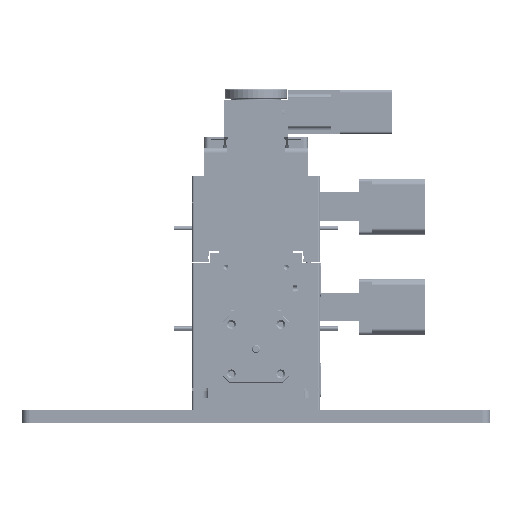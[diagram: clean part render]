
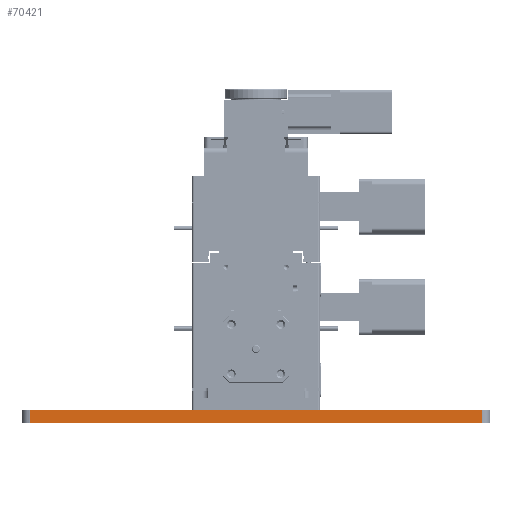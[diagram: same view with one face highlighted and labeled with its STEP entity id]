
A CAD part, left-side view. The second image highlights one B-rep face of the part: STEP entity #70421.
In plain terms, the highlighted planar face has unit normal (-1, 0, 0).
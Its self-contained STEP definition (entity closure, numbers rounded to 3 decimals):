
#2271 = CARTESIAN_POINT ( 'NONE',  ( -272., -147., 8. ) ) ;
#20353 = LINE ( 'NONE', #36945, #142724 ) ;
#21741 = EDGE_CURVE ( 'NONE', #163173, #234034, #173721, .T. ) ;
#36945 = CARTESIAN_POINT ( 'NONE',  ( -272., -142., 8. ) ) ;
#38524 = CARTESIAN_POINT ( 'NONE',  ( -272., 142., 8. ) ) ;
#41445 = VERTEX_POINT ( 'NONE', #50079 ) ;
#50079 = CARTESIAN_POINT ( 'NONE',  ( -272., -142., 8. ) ) ;
#54050 = VECTOR ( 'NONE', #64849, 1000. ) ;
#56665 = FACE_OUTER_BOUND ( 'NONE', #183334, .T. ) ;
#57373 = ORIENTED_EDGE ( 'NONE', *, *, #91475, .F. ) ;
#64849 = DIRECTION ( 'NONE',  ( 0., -1., 0. ) ) ;
#70421 = ADVANCED_FACE ( 'NONE', ( #56665 ), #148861, .F. ) ;
#84312 = VECTOR ( 'NONE', #155971, 1000. ) ;
#91475 = EDGE_CURVE ( 'NONE', #176090, #41445, #223357, .T. ) ;
#96267 = DIRECTION ( 'NONE',  ( 0., 0., -1. ) ) ;
#100898 = CARTESIAN_POINT ( 'NONE',  ( -272., 142., 8. ) ) ;
#102631 = ORIENTED_EDGE ( 'NONE', *, *, #152054, .T. ) ;
#111364 = DIRECTION ( 'NONE',  ( 0., 0., 1. ) ) ;
#117011 = CARTESIAN_POINT ( 'NONE',  ( -272., -147., 0. ) ) ;
#119238 = CARTESIAN_POINT ( 'NONE',  ( -272., -147., 8. ) ) ;
#122743 = AXIS2_PLACEMENT_3D ( 'NONE', #2271, #186684, #131146 ) ;
#127407 = CARTESIAN_POINT ( 'NONE',  ( -272., 142., 0. ) ) ;
#129032 = EDGE_CURVE ( 'NONE', #234034, #41445, #20353, .T. ) ;
#131146 = DIRECTION ( 'NONE',  ( 0., 0., -1. ) ) ;
#132906 = LINE ( 'NONE', #100898, #175442 ) ;
#142724 = VECTOR ( 'NONE', #111364, 1000. ) ;
#145086 = ORIENTED_EDGE ( 'NONE', *, *, #21741, .T. ) ;
#148861 = PLANE ( 'NONE',  #122743 ) ;
#152054 = EDGE_CURVE ( 'NONE', #176090, #163173, #132906, .T. ) ;
#155971 = DIRECTION ( 'NONE',  ( 0., -1., 0. ) ) ;
#162515 = CARTESIAN_POINT ( 'NONE',  ( -272., -142., 0. ) ) ;
#163173 = VERTEX_POINT ( 'NONE', #127407 ) ;
#173721 = LINE ( 'NONE', #117011, #84312 ) ;
#175442 = VECTOR ( 'NONE', #96267, 1000. ) ;
#176090 = VERTEX_POINT ( 'NONE', #38524 ) ;
#183334 = EDGE_LOOP ( 'NONE', ( #145086, #218990, #57373, #102631 ) ) ;
#186684 = DIRECTION ( 'NONE',  ( 1., 0., 0. ) ) ;
#218990 = ORIENTED_EDGE ( 'NONE', *, *, #129032, .T. ) ;
#223357 = LINE ( 'NONE', #119238, #54050 ) ;
#234034 = VERTEX_POINT ( 'NONE', #162515 ) ;
